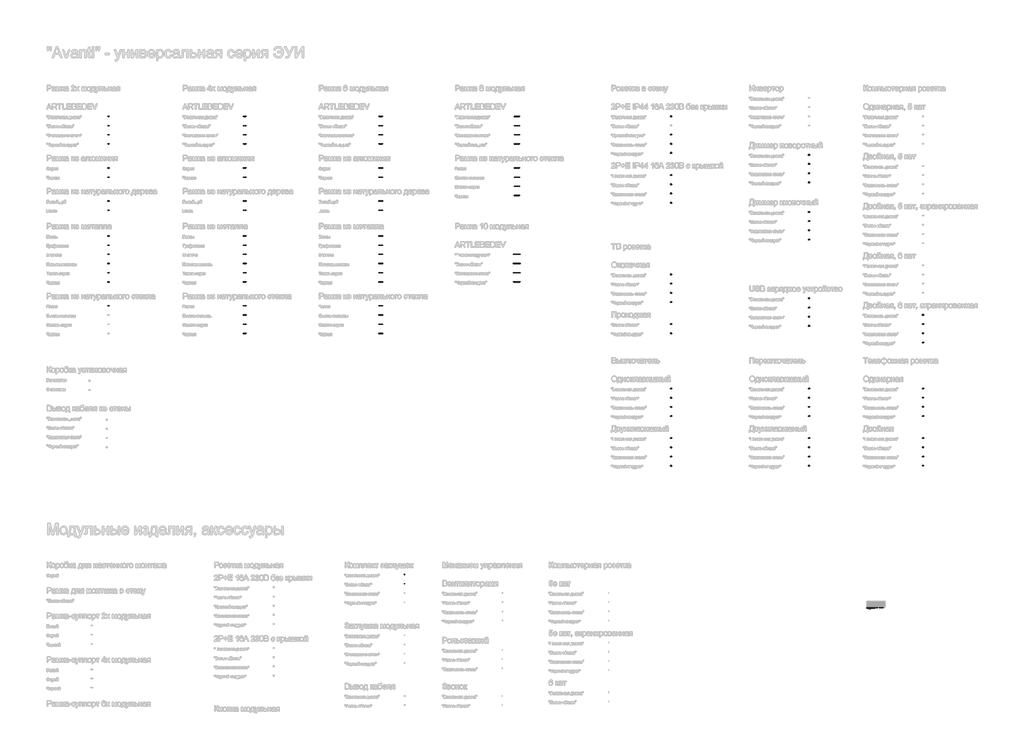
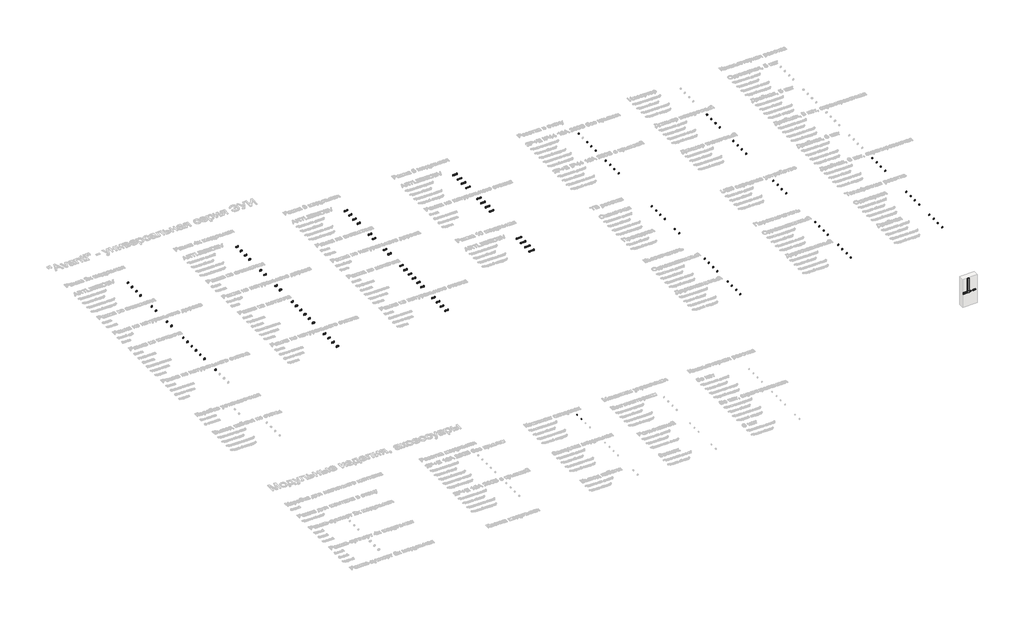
# One storey, part 3 of 168: 129 proxies, 2 duct segments, 1 duct fitting.
"""IFC4 building model written with IfcOpenShell, lengths in millimetres."""

from ifc_helpers import new_model, si_unit, frame, origin, place, context, project, spatial, polyline, outline, extrude, faceted_brep, transform, mapped, element, save
from components import electrical_fixtures_64242326, electrical_fixtures_7a4067e5, electrical_fixtures_bac29046, electrical_fixtures_c10009a4, electrical_fixtures_3f9b09d0, electrical_fixtures_8fb45597, electrical_fixtures_08d7c8de, electrical_fixtures_b48138a3, electrical_fixtures_91fae2c1, electrical_fixtures_f4b334c2, electrical_fixtures_fd861027, electrical_fixtures_89278909, electrical_fixtures_578d20b1, electrical_fixtures_f4268dcb, electrical_fixtures_f1823011, electrical_fixtures_b6c30506, electrical_fixtures_c774a66e, electrical_fixtures_0e93574a, electrical_fixtures_08b576f3, electrical_fixtures_21377ced, electrical_fixtures_25df590b, electrical_fixtures_0ded3fe8, electrical_fixtures_504ae2bb, electrical_fixtures_d27445fa, electrical_fixtures_9d928247, electrical_fixtures_1179ebf0, electrical_fixtures_4ca22318, electrical_fixtures_21e1debb, duct_fitting_18d34416

model = new_model("IFC4")

# Units and contexts
model_context = context("Model", 3, world=origin())
ifc_project = project(units=[si_unit("LENGTHUNIT", "METRE", prefix="MILLI")], contexts=[model_context])

# Site, building, storey
site = spatial("IfcSite", under=ifc_project)
building = spatial("IfcBuilding", under=site)
storey = spatial("IfcBuildingStorey", under=building, Name="Этаж 01", Elevation=0.0)

# Proxies
placement = place(None, origin())
electrical_fixtures_shape = electrical_fixtures_64242326(model_context)
element("IfcBuildingElementProxy", 1, Name="КНС_РамкаСуппортЧетыреМодуля_DKC : Белая", ObjectType="КНС_РамкаСуппортЧетыреМодуля_DKC : Белая", at=placement, inside=storey, context=model_context, shape_type="MappedRepresentation", body=[
    mapped(electrical_fixtures_shape, transform((77624.8555048, -33183.1726656, 1000.0), x_axis=(1.0, 0.0, 0.0), y_axis=(0.0, 1.0, 0.0), z_axis=(0.0, 0.0, 1.0))),
])
electrical_fixtures_2_shape = electrical_fixtures_7a4067e5(model_context)
element("IfcBuildingElementProxy", 2, Name="КНС_РамкаДваМодуля_DKC : Натуральное стекло_Белая", ObjectType="КНС_РамкаДваМодуля_DKC : Натуральное стекло_Белая", at=placement, inside=storey, context=model_context, shape_type="MappedRepresentation", body=[
    mapped(electrical_fixtures_2_shape, transform((36232.6691835, -16731.5608655, 0.0), x_axis=(1.0, 0.0, 0.0), y_axis=(0.0, 1.0, 0.0), z_axis=(0.0, 0.0, 1.0))),
])
element("IfcBuildingElementProxy", 3, Name="КНС_РамкаДваМодуля_DKC : Металл_Белая", ObjectType="КНС_РамкаДваМодуля_DKC : Металл_Белая", at=placement, inside=storey, context=model_context, shape_type="MappedRepresentation", body=[
    mapped(electrical_fixtures_2_shape, transform((36232.6691835, -12931.5608655, 0.0), x_axis=(1.0, 0.0, 0.0), y_axis=(0.0, 1.0, 0.0), z_axis=(0.0, 0.0, 1.0))),
])
electrical_fixtures_3_shape = electrical_fixtures_bac29046(model_context)
element("IfcBuildingElementProxy", 4, Name="КНС_РамкаДваМодуля_DKC : ARTLEBEDEV_Белая", ObjectType="КНС_РамкаДваМодуля_DKC : ARTLEBEDEV_Белая", at=placement, inside=storey, context=model_context, shape_type="MappedRepresentation", body=[
    mapped(electrical_fixtures_3_shape, transform((36232.6691835, -6931.5608655, 0.0), x_axis=(1.0, 0.0, 0.0), y_axis=(0.0, 1.0, 0.0), z_axis=(0.0, 0.0, 1.0))),
])
element("IfcBuildingElementProxy", 5, Name="КНС_РамкаДваМодуля_DKC : Алюминий_Черная", ObjectType="КНС_РамкаДваМодуля_DKC : Алюминий_Черная", at=placement, inside=storey, context=model_context, shape_type="MappedRepresentation", body=[
    mapped(electrical_fixtures_2_shape, transform((36232.6691835, -9731.5608655, 0.0), x_axis=(1.0, 0.0, 0.0), y_axis=(0.0, 1.0, 0.0), z_axis=(0.0, 0.0, 1.0))),
])
electrical_fixtures_4_shape = electrical_fixtures_c10009a4(model_context)
element("IfcBuildingElementProxy", 6, Name="КНС_РамкаДваМодуля_DKC : Дерево_Черная", ObjectType="КНС_РамкаДваМодуля_DKC : Дерево_Черная", at=placement, inside=storey, context=model_context, shape_type="MappedRepresentation", body=[
    mapped(electrical_fixtures_4_shape, transform((36232.6691835, -11531.5608655, 0.0), x_axis=(1.0, 0.0, 0.0), y_axis=(0.0, 1.0, 0.0), z_axis=(0.0, 0.0, 1.0))),
])
element("IfcBuildingElementProxy", 7, Name="КНС_РамкаДваМодуля_DKC : Металл_Черная", ObjectType="КНС_РамкаДваМодуля_DKC : Металл_Черная", at=placement, inside=storey, context=model_context, shape_type="MappedRepresentation", body=[
    mapped(electrical_fixtures_2_shape, transform((36232.6691835, -15431.5608655, 0.0), x_axis=(1.0, 0.0, 0.0), y_axis=(0.0, 1.0, 0.0), z_axis=(0.0, 0.0, 1.0))),
])
element("IfcBuildingElementProxy", 8, Name="КНС_РамкаДваМодуля_DKC : ARTLEBEDEV_Черная", ObjectType="КНС_РамкаДваМодуля_DKC : ARTLEBEDEV_Черная", at=placement, inside=storey, context=model_context, shape_type="MappedRepresentation", body=[
    mapped(electrical_fixtures_3_shape, transform((36232.6691835, -7931.5608655, 0.0), x_axis=(1.0, 0.0, 0.0), y_axis=(0.0, 1.0, 0.0), z_axis=(0.0, 0.0, 1.0))),
])
element("IfcBuildingElementProxy", 9, Name="КНС_РамкаДваМодуля_DKC : Металл_Темно-серая", ObjectType="КНС_РамкаДваМодуля_DKC : Металл_Темно-серая", at=placement, inside=storey, context=model_context, shape_type="MappedRepresentation", body=[
    mapped(electrical_fixtures_2_shape, transform((36232.6691835, -14931.5608655, 0.0), x_axis=(1.0, 0.0, 0.0), y_axis=(0.0, 1.0, 0.0), z_axis=(0.0, 0.0, 1.0))),
])
element("IfcBuildingElementProxy", 10, Name="КНС_РамкаДваМодуля_DKC : Алюминий_Серая", ObjectType="КНС_РамкаДваМодуля_DKC : Алюминий_Серая", at=placement, inside=storey, context=model_context, shape_type="MappedRepresentation", body=[
    mapped(electrical_fixtures_2_shape, transform((36232.6691835, -9231.5608655, 0.0), x_axis=(1.0, 0.0, 0.0), y_axis=(0.0, 1.0, 0.0), z_axis=(0.0, 0.0, 1.0))),
])
element("IfcBuildingElementProxy", 11, Name="КНС_РамкаДваМодуля_DKC : ARTLEBEDEV_Серая", ObjectType="КНС_РамкаДваМодуля_DKC : ARTLEBEDEV_Серая", at=placement, inside=storey, context=model_context, shape_type="MappedRepresentation", body=[
    mapped(electrical_fixtures_3_shape, transform((36232.6691835, -7431.5608655, 0.0), x_axis=(1.0, 0.0, 0.0), y_axis=(0.0, 1.0, 0.0), z_axis=(0.0, 0.0, 1.0))),
])
element("IfcBuildingElementProxy", 12, Name="КНС_РамкаДваМодуля_DKC : ARTLEBEDEV_Серая", ObjectType="КНС_РамкаДваМодуля_DKC : ARTLEBEDEV_Серая", at=placement, inside=storey, context=model_context, shape_type="MappedRepresentation", body=[
    mapped(electrical_fixtures_3_shape, transform((78005.8555048, -33133.1726656, 1000.0), x_axis=(1.0, 0.0, 0.0), y_axis=(0.0, 1.0, 0.0), z_axis=(0.0, 0.0, 1.0))),
])
element("IfcBuildingElementProxy", 13, Name="КНС_РамкаДваМодуля_DKC : Металл_Графитовая", ObjectType="КНС_РамкаДваМодуля_DKC : Металл_Графитовая", at=placement, inside=storey, context=model_context, shape_type="MappedRepresentation", body=[
    mapped(electrical_fixtures_2_shape, transform((36232.6691835, -13431.5608655, 0.0), x_axis=(1.0, 0.0, 0.0), y_axis=(0.0, 1.0, 0.0), z_axis=(0.0, 0.0, 1.0))),
])
element("IfcBuildingElementProxy", 14, Name="КНС_РамкаДваМодуля_DKC : Металл_Золотая", ObjectType="КНС_РамкаДваМодуля_DKC : Металл_Золотая", at=placement, inside=storey, context=model_context, shape_type="MappedRepresentation", body=[
    mapped(electrical_fixtures_2_shape, transform((36232.6691835, -13931.5608655, 0.0), x_axis=(1.0, 0.0, 0.0), y_axis=(0.0, 1.0, 0.0), z_axis=(0.0, 0.0, 1.0))),
])
element("IfcBuildingElementProxy", 15, Name="КНС_РамкаДваМодуля_DKC : ARTLEBEDEV_Бежевая", ObjectType="КНС_РамкаДваМодуля_DKC : ARTLEBEDEV_Бежевая", at=placement, inside=storey, context=model_context, shape_type="MappedRepresentation", body=[
    mapped(electrical_fixtures_3_shape, transform((36232.6691835, -6431.5608655, 0.0), x_axis=(1.0, 0.0, 0.0), y_axis=(0.0, 1.0, 0.0), z_axis=(0.0, 0.0, 1.0))),
])
element("IfcBuildingElementProxy", 16, Name="КНС_РамкаДваМодуля_DKC : Дерево_Белая", ObjectType="КНС_РамкаДваМодуля_DKC : Дерево_Белая", at=placement, inside=storey, context=model_context, shape_type="MappedRepresentation", body=[
    mapped(electrical_fixtures_4_shape, transform((36232.6691835, -11031.5608655, 0.0), x_axis=(1.0, 0.0, 0.0), y_axis=(0.0, 1.0, 0.0), z_axis=(0.0, 0.0, 1.0))),
])
electrical_fixtures_5_shape = electrical_fixtures_3f9b09d0(model_context)
element("IfcBuildingElementProxy", 17, Name="КНС_РозеткаВСтену_DKC : 2P+E IP44 16А 230В_Белая", ObjectType="КНС_РозеткаВСтену_DKC : 2P+E IP44 16А 230В_Белая", at=placement, inside=storey, context=model_context, shape_type="MappedRepresentation", body=[
    mapped(electrical_fixtures_5_shape, transform((78178.3555048, -33098.4726656, 1000.0), x_axis=(1.0, 0.0, 0.0), y_axis=(0.0, 1.0, 0.0), z_axis=(0.0, 0.0, 1.0))),
])
element("IfcBuildingElementProxy", 18, Name="КНС_РозеткаВСтену_DKC : 2P+E IP44 16А 230В_Белая", ObjectType="КНС_РозеткаВСтену_DKC : 2P+E IP44 16А 230В_Белая", at=placement, inside=storey, context=model_context, shape_type="MappedRepresentation", body=[
    mapped(electrical_fixtures_5_shape, transform((78248.3555048, -33098.4726656, 1000.0), x_axis=(1.0, 0.0, 0.0), y_axis=(0.0, 1.0, 0.0), z_axis=(0.0, 0.0, 1.0))),
])
electrical_fixtures_6_shape = electrical_fixtures_8fb45597(model_context)
element("IfcBuildingElementProxy", 19, Name="КНС_РозеткаВСтену_DKC : С крышкой_2P+E IP44 16А 230В_Белая", ObjectType="КНС_РозеткаВСтену_DKC : С крышкой_2P+E IP44 16А 230В_Белая", at=placement, inside=storey, context=model_context, shape_type="MappedRepresentation", body=[
    mapped(electrical_fixtures_6_shape, transform((66821.1137461, -10096.8608655, 0.0), x_axis=(1.0, 0.0, 0.0), y_axis=(0.0, 1.0, 0.0), z_axis=(0.0, 0.0, 1.0))),
])
element("IfcBuildingElementProxy", 20, Name="КНС_РозеткаВСтену_DKC : С крышкой_2P+E IP44 16А 230В_Бежевая", ObjectType="КНС_РозеткаВСтену_DKC : С крышкой_2P+E IP44 16А 230В_Бежевая", at=placement, inside=storey, context=model_context, shape_type="MappedRepresentation", body=[
    mapped(electrical_fixtures_6_shape, transform((66821.1137461, -9596.8608655, 0.0), x_axis=(1.0, 0.0, 0.0), y_axis=(0.0, 1.0, 0.0), z_axis=(0.0, 0.0, 1.0))),
])
element("IfcBuildingElementProxy", 21, Name="КНС_РозеткаВСтену_DKC : 2P+E IP44 16А 230В_Бежевая", ObjectType="КНС_РозеткаВСтену_DKC : 2P+E IP44 16А 230В_Бежевая", at=placement, inside=storey, context=model_context, shape_type="MappedRepresentation", body=[
    mapped(electrical_fixtures_5_shape, transform((66821.1137461, -6396.8608655, 0.0), x_axis=(1.0, 0.0, 0.0), y_axis=(0.0, 1.0, 0.0), z_axis=(0.0, 0.0, 1.0))),
])
element("IfcBuildingElementProxy", 22, Name="КНС_РозеткаВСтену_DKC : 2P+E IP44 16А 230В_Серая", ObjectType="КНС_РозеткаВСтену_DKC : 2P+E IP44 16А 230В_Серая", at=placement, inside=storey, context=model_context, shape_type="MappedRepresentation", body=[
    mapped(electrical_fixtures_5_shape, transform((66821.1137461, -7896.8608655, 0.0), x_axis=(1.0, 0.0, 0.0), y_axis=(0.0, 1.0, 0.0), z_axis=(0.0, 0.0, 1.0))),
])
element("IfcBuildingElementProxy", 23, Name="КНС_РозеткаВСтену_DKC : 2P+E IP44 16А 230В_Серая", ObjectType="КНС_РозеткаВСтену_DKC : 2P+E IP44 16А 230В_Серая", at=placement, inside=storey, context=model_context, shape_type="MappedRepresentation", body=[
    mapped(electrical_fixtures_5_shape, transform((78005.8555048, -33098.4726656, 1000.0), x_axis=(1.0, 0.0, 0.0), y_axis=(0.0, 1.0, 0.0), z_axis=(0.0, 0.0, 1.0))),
])
element("IfcBuildingElementProxy", 24, Name="КНС_РозеткаВСтену_DKC : 2P+E IP44 16А 230В_Черная", ObjectType="КНС_РозеткаВСтену_DKC : 2P+E IP44 16А 230В_Черная", at=placement, inside=storey, context=model_context, shape_type="MappedRepresentation", body=[
    mapped(electrical_fixtures_5_shape, transform((66821.1137461, -8396.8608655, 0.0), x_axis=(1.0, 0.0, 0.0), y_axis=(0.0, 1.0, 0.0), z_axis=(0.0, 0.0, 1.0))),
])
element("IfcBuildingElementProxy", 25, Name="КНС_РозеткаВСтену_DKC : 2P+E IP44 16А 230В_Красная", ObjectType="КНС_РозеткаВСтену_DKC : 2P+E IP44 16А 230В_Красная", at=placement, inside=storey, context=model_context, shape_type="MappedRepresentation", body=[
    mapped(electrical_fixtures_5_shape, transform((66821.1137461, -7396.8608655, 0.0), x_axis=(1.0, 0.0, 0.0), y_axis=(0.0, 1.0, 0.0), z_axis=(0.0, 0.0, 1.0))),
])
element("IfcBuildingElementProxy", 26, Name="КНС_РозеткаВСтену_DKC : С крышкой_2P+E IP44 16А 230В_Черная", ObjectType="КНС_РозеткаВСтену_DKC : С крышкой_2P+E IP44 16А 230В_Черная", at=placement, inside=storey, context=model_context, shape_type="MappedRepresentation", body=[
    mapped(electrical_fixtures_6_shape, transform((66821.1137461, -11096.8608655, 0.0), x_axis=(1.0, 0.0, 0.0), y_axis=(0.0, 1.0, 0.0), z_axis=(0.0, 0.0, 1.0))),
])
element("IfcBuildingElementProxy", 27, Name="КНС_РозеткаВСтену_DKC : С крышкой_2P+E IP44 16А 230В_Серая", ObjectType="КНС_РозеткаВСтену_DKC : С крышкой_2P+E IP44 16А 230В_Серая", at=placement, inside=storey, context=model_context, shape_type="MappedRepresentation", body=[
    mapped(electrical_fixtures_6_shape, transform((66821.1137461, -10596.8608655, 0.0), x_axis=(1.0, 0.0, 0.0), y_axis=(0.0, 1.0, 0.0), z_axis=(0.0, 0.0, 1.0))),
])
electrical_fixtures_7_shape = electrical_fixtures_08d7c8de(model_context)
element("IfcBuildingElementProxy", 28, Name="КНС_РозеткаМодульная_DKC : 2P+E 16А 230В_Белая", ObjectType="КНС_РозеткаМодульная_DKC : 2P+E 16А 230В_Белая", at=placement, inside=storey, context=model_context, shape_type="MappedRepresentation", body=[
    mapped(electrical_fixtures_7_shape, transform((77598.8555048, -33148.4726656, 1000.0), x_axis=(1.0, 0.0, 0.0), y_axis=(0.0, 1.0, 0.0), z_axis=(0.0, 0.0, 1.0))),
])
element("IfcBuildingElementProxy", 29, Name="КНС_РамкаДваМодуля_DKC : Металл_Никилированная", ObjectType="КНС_РамкаДваМодуля_DKC : Металл_Никилированная", at=placement, inside=storey, context=model_context, shape_type="MappedRepresentation", body=[
    mapped(electrical_fixtures_2_shape, transform((36232.6691835, -14431.5608655, 0.0), x_axis=(1.0, 0.0, 0.0), y_axis=(0.0, 1.0, 0.0), z_axis=(0.0, 0.0, 1.0))),
])
electrical_fixtures_8_shape = electrical_fixtures_b48138a3(model_context)
element("IfcBuildingElementProxy", 30, Name="КНС_РамкаЧетыреМодуля_DKC : Натуральное стекло_Белая", ObjectType="КНС_РамкаЧетыреМодуля_DKC : Натуральное стекло_Белая", at=placement, inside=storey, context=model_context, shape_type="MappedRepresentation", body=[
    mapped(electrical_fixtures_8_shape, transform((43632.6691835, -16731.5608655, 0.0), x_axis=(1.0, 0.0, 0.0), y_axis=(0.0, 1.0, 0.0), z_axis=(0.0, 0.0, 1.0))),
])
element("IfcBuildingElementProxy", 31, Name="КНС_РамкаЧетыреМодуля_DKC : Металл_Белая", ObjectType="КНС_РамкаЧетыреМодуля_DKC : Металл_Белая", at=placement, inside=storey, context=model_context, shape_type="MappedRepresentation", body=[
    mapped(electrical_fixtures_8_shape, transform((43632.6691835, -12931.5608655, 0.0), x_axis=(1.0, 0.0, 0.0), y_axis=(0.0, 1.0, 0.0), z_axis=(0.0, 0.0, 1.0))),
])
electrical_fixtures_9_shape = electrical_fixtures_91fae2c1(model_context)
element("IfcBuildingElementProxy", 32, Name="КНС_РамкаЧетыреМодуля_DKC : ARTLEBEDEV_Белая", ObjectType="КНС_РамкаЧетыреМодуля_DKC : ARTLEBEDEV_Белая", at=placement, inside=storey, context=model_context, shape_type="MappedRepresentation", body=[
    mapped(electrical_fixtures_9_shape, transform((43632.6691835, -6931.5608655, 0.0), x_axis=(1.0, 0.0, 0.0), y_axis=(0.0, 1.0, 0.0), z_axis=(0.0, 0.0, 1.0))),
])
element("IfcBuildingElementProxy", 33, Name="КНС_РамкаЧетыреМодуля_DKC : Натуральное стекло_Черная", ObjectType="КНС_РамкаЧетыреМодуля_DKC : Натуральное стекло_Черная", at=placement, inside=storey, context=model_context, shape_type="MappedRepresentation", body=[
    mapped(electrical_fixtures_8_shape, transform((43632.6691835, -18231.5608655, 0.0), x_axis=(1.0, 0.0, 0.0), y_axis=(0.0, 1.0, 0.0), z_axis=(0.0, 0.0, 1.0))),
])
element("IfcBuildingElementProxy", 34, Name="КНС_РамкаЧетыреМодуля_DKC : Алюминий_Черная", ObjectType="КНС_РамкаЧетыреМодуля_DKC : Алюминий_Черная", at=placement, inside=storey, context=model_context, shape_type="MappedRepresentation", body=[
    mapped(electrical_fixtures_8_shape, transform((43632.6691835, -9731.5608655, 0.0), x_axis=(1.0, 0.0, 0.0), y_axis=(0.0, 1.0, 0.0), z_axis=(0.0, 0.0, 1.0))),
])
electrical_fixtures_10_shape = electrical_fixtures_f4b334c2(model_context)
element("IfcBuildingElementProxy", 35, Name="КНС_РамкаЧетыреМодуля_DKC : Дерево_Черная", ObjectType="КНС_РамкаЧетыреМодуля_DKC : Дерево_Черная", at=placement, inside=storey, context=model_context, shape_type="MappedRepresentation", body=[
    mapped(electrical_fixtures_10_shape, transform((43632.6691835, -11531.5608655, 0.0), x_axis=(1.0, 0.0, 0.0), y_axis=(0.0, 1.0, 0.0), z_axis=(0.0, 0.0, 1.0))),
])
element("IfcBuildingElementProxy", 36, Name="КНС_РамкаЧетыреМодуля_DKC : Металл_Черная", ObjectType="КНС_РамкаЧетыреМодуля_DKC : Металл_Черная", at=placement, inside=storey, context=model_context, shape_type="MappedRepresentation", body=[
    mapped(electrical_fixtures_8_shape, transform((43632.6691835, -15431.5608655, 0.0), x_axis=(1.0, 0.0, 0.0), y_axis=(0.0, 1.0, 0.0), z_axis=(0.0, 0.0, 1.0))),
])
element("IfcBuildingElementProxy", 37, Name="КНС_РамкаЧетыреМодуля_DKC : ARTLEBEDEV_Черная", ObjectType="КНС_РамкаЧетыреМодуля_DKC : ARTLEBEDEV_Черная", at=placement, inside=storey, context=model_context, shape_type="MappedRepresentation", body=[
    mapped(electrical_fixtures_9_shape, transform((43632.6691835, -7931.5608655, 0.0), x_axis=(1.0, 0.0, 0.0), y_axis=(0.0, 1.0, 0.0), z_axis=(0.0, 0.0, 1.0))),
])
element("IfcBuildingElementProxy", 38, Name="КНС_РамкаЧетыреМодуля_DKC : Металл_Темно-серая", ObjectType="КНС_РамкаЧетыреМодуля_DKC : Металл_Темно-серая", at=placement, inside=storey, context=model_context, shape_type="MappedRepresentation", body=[
    mapped(electrical_fixtures_8_shape, transform((43632.6691835, -14931.5608655, 0.0), x_axis=(1.0, 0.0, 0.0), y_axis=(0.0, 1.0, 0.0), z_axis=(0.0, 0.0, 1.0))),
])
element("IfcBuildingElementProxy", 39, Name="КНС_РамкаЧетыреМодуля_DKC : Натуральное стекло_Светло-серая", ObjectType="КНС_РамкаЧетыреМодуля_DKC : Натуральное стекло_Светло-серая", at=placement, inside=storey, context=model_context, shape_type="MappedRepresentation", body=[
    mapped(electrical_fixtures_8_shape, transform((43632.6691835, -17731.5608655, 0.0), x_axis=(1.0, 0.0, 0.0), y_axis=(0.0, 1.0, 0.0), z_axis=(0.0, 0.0, 1.0))),
])
element("IfcBuildingElementProxy", 40, Name="КНС_РамкаЧетыреМодуля_DKC : Алюминий_Серая", ObjectType="КНС_РамкаЧетыреМодуля_DKC : Алюминий_Серая", at=placement, inside=storey, context=model_context, shape_type="MappedRepresentation", body=[
    mapped(electrical_fixtures_8_shape, transform((43632.6691835, -9231.5608655, 0.0), x_axis=(1.0, 0.0, 0.0), y_axis=(0.0, 1.0, 0.0), z_axis=(0.0, 0.0, 1.0))),
])
element("IfcBuildingElementProxy", 41, Name="КНС_РамкаЧетыреМодуля_DKC : ARTLEBEDEV_Серая", ObjectType="КНС_РамкаЧетыреМодуля_DKC : ARTLEBEDEV_Серая", at=placement, inside=storey, context=model_context, shape_type="MappedRepresentation", body=[
    mapped(electrical_fixtures_9_shape, transform((43632.6691835, -7431.5608655, 0.0), x_axis=(1.0, 0.0, 0.0), y_axis=(0.0, 1.0, 0.0), z_axis=(0.0, 0.0, 1.0))),
])
element("IfcBuildingElementProxy", 42, Name="КНС_РамкаЧетыреМодуля_DKC : Натуральное стекло_Светло-зеленая", ObjectType="КНС_РамкаЧетыреМодуля_DKC : Натуральное стекло_Светло-зеленая", at=placement, inside=storey, context=model_context, shape_type="MappedRepresentation", body=[
    mapped(electrical_fixtures_8_shape, transform((43632.6691835, -17231.5608655, 0.0), x_axis=(1.0, 0.0, 0.0), y_axis=(0.0, 1.0, 0.0), z_axis=(0.0, 0.0, 1.0))),
])
element("IfcBuildingElementProxy", 43, Name="КНС_РамкаЧетыреМодуля_DKC : Металл_Графитовая", ObjectType="КНС_РамкаЧетыреМодуля_DKC : Металл_Графитовая", at=placement, inside=storey, context=model_context, shape_type="MappedRepresentation", body=[
    mapped(electrical_fixtures_8_shape, transform((43632.6691835, -13431.5608655, 0.0), x_axis=(1.0, 0.0, 0.0), y_axis=(0.0, 1.0, 0.0), z_axis=(0.0, 0.0, 1.0))),
])
element("IfcBuildingElementProxy", 44, Name="КНС_РамкаЧетыреМодуля_DKC : Металл_Золотая", ObjectType="КНС_РамкаЧетыреМодуля_DKC : Металл_Золотая", at=placement, inside=storey, context=model_context, shape_type="MappedRepresentation", body=[
    mapped(electrical_fixtures_8_shape, transform((43632.6691835, -13931.5608655, 0.0), x_axis=(1.0, 0.0, 0.0), y_axis=(0.0, 1.0, 0.0), z_axis=(0.0, 0.0, 1.0))),
])
element("IfcBuildingElementProxy", 45, Name="КНС_РамкаЧетыреМодуля_DKC : Металл_Никилированная", ObjectType="КНС_РамкаЧетыреМодуля_DKC : Металл_Никилированная", at=placement, inside=storey, context=model_context, shape_type="MappedRepresentation", body=[
    mapped(electrical_fixtures_8_shape, transform((43632.6691835, -14431.5608655, 0.0), x_axis=(1.0, 0.0, 0.0), y_axis=(0.0, 1.0, 0.0), z_axis=(0.0, 0.0, 1.0))),
])
element("IfcBuildingElementProxy", 46, Name="КНС_РамкаЧетыреМодуля_DKC : ARTLEBEDEV_Бежевая", ObjectType="КНС_РамкаЧетыреМодуля_DKC : ARTLEBEDEV_Бежевая", at=placement, inside=storey, context=model_context, shape_type="MappedRepresentation", body=[
    mapped(electrical_fixtures_9_shape, transform((43632.6691835, -6431.5608655, 0.0), x_axis=(1.0, 0.0, 0.0), y_axis=(0.0, 1.0, 0.0), z_axis=(0.0, 0.0, 1.0))),
])
element("IfcBuildingElementProxy", 47, Name="КНС_РамкаЧетыреМодуля_DKC : Дерево_Белая", ObjectType="КНС_РамкаЧетыреМодуля_DKC : Дерево_Белая", at=placement, inside=storey, context=model_context, shape_type="MappedRepresentation", body=[
    mapped(electrical_fixtures_10_shape, transform((43632.6691835, -11031.5608655, 0.0), x_axis=(1.0, 0.0, 0.0), y_axis=(0.0, 1.0, 0.0), z_axis=(0.0, 0.0, 1.0))),
])
electrical_fixtures_11_shape = electrical_fixtures_fd861027(model_context)
element("IfcBuildingElementProxy", 48, Name="КНС_РамкаШестьМодулей_DKC : Натуральное стекло_Белая", ObjectType="КНС_РамкаШестьМодулей_DKC : Натуральное стекло_Белая", at=placement, inside=storey, context=model_context, shape_type="MappedRepresentation", body=[
    mapped(electrical_fixtures_11_shape, transform((51032.6691835, -16731.5608655, 0.0), x_axis=(1.0, 0.0, 0.0), y_axis=(0.0, 1.0, 0.0), z_axis=(0.0, 0.0, 1.0))),
])
element("IfcBuildingElementProxy", 49, Name="КНС_РамкаШестьМодулей_DKC : Металл_Белая", ObjectType="КНС_РамкаШестьМодулей_DKC : Металл_Белая", at=placement, inside=storey, context=model_context, shape_type="MappedRepresentation", body=[
    mapped(electrical_fixtures_11_shape, transform((51032.6691835, -12931.5608655, 0.0), x_axis=(1.0, 0.0, 0.0), y_axis=(0.0, 1.0, 0.0), z_axis=(0.0, 0.0, 1.0))),
])
element("IfcBuildingElementProxy", 50, Name="КНС_РамкаШестьМодулей_DKC : Металл_Белая", ObjectType="КНС_РамкаШестьМодулей_DKC : Металл_Белая", at=placement, inside=storey, context=model_context, shape_type="MappedRepresentation", body=[
    mapped(electrical_fixtures_11_shape, transform((78248.3555048, -33133.1726656, 1000.0), x_axis=(1.0, 0.0, 0.0), y_axis=(0.0, 1.0, 0.0), z_axis=(0.0, 0.0, 1.0))),
])
electrical_fixtures_12_shape = electrical_fixtures_89278909(model_context)
element("IfcBuildingElementProxy", 51, Name="КНС_РамкаШестьМодулей_DKC : ARTLEBEDEV_Белая", ObjectType="КНС_РамкаШестьМодулей_DKC : ARTLEBEDEV_Белая", at=placement, inside=storey, context=model_context, shape_type="MappedRepresentation", body=[
    mapped(electrical_fixtures_12_shape, transform((51032.6691835, -6931.5608655, 0.0), x_axis=(1.0, 0.0, 0.0), y_axis=(0.0, 1.0, 0.0), z_axis=(0.0, 0.0, 1.0))),
])
element("IfcBuildingElementProxy", 52, Name="КНС_РамкаШестьМодулей_DKC : Натуральное стекло_Черная", ObjectType="КНС_РамкаШестьМодулей_DKC : Натуральное стекло_Черная", at=placement, inside=storey, context=model_context, shape_type="MappedRepresentation", body=[
    mapped(electrical_fixtures_11_shape, transform((51032.6691835, -18231.5608655, 0.0), x_axis=(1.0, 0.0, 0.0), y_axis=(0.0, 1.0, 0.0), z_axis=(0.0, 0.0, 1.0))),
])
element("IfcBuildingElementProxy", 53, Name="КНС_РамкаШестьМодулей_DKC : Алюминий_Черная", ObjectType="КНС_РамкаШестьМодулей_DKC : Алюминий_Черная", at=placement, inside=storey, context=model_context, shape_type="MappedRepresentation", body=[
    mapped(electrical_fixtures_11_shape, transform((51032.6691835, -9731.5608655, 0.0), x_axis=(1.0, 0.0, 0.0), y_axis=(0.0, 1.0, 0.0), z_axis=(0.0, 0.0, 1.0))),
])
electrical_fixtures_13_shape = electrical_fixtures_578d20b1(model_context)
element("IfcBuildingElementProxy", 54, Name="КНС_РамкаШестьМодулей_DKC : Дерево_Черная", ObjectType="КНС_РамкаШестьМодулей_DKC : Дерево_Черная", at=placement, inside=storey, context=model_context, shape_type="MappedRepresentation", body=[
    mapped(electrical_fixtures_13_shape, transform((51032.6691835, -11531.5608655, 0.0), x_axis=(1.0, 0.0, 0.0), y_axis=(0.0, 1.0, 0.0), z_axis=(0.0, 0.0, 1.0))),
])
element("IfcBuildingElementProxy", 55, Name="КНС_РамкаШестьМодулей_DKC : Металл_Черная", ObjectType="КНС_РамкаШестьМодулей_DKC : Металл_Черная", at=placement, inside=storey, context=model_context, shape_type="MappedRepresentation", body=[
    mapped(electrical_fixtures_11_shape, transform((51032.6691835, -15431.5608655, 0.0), x_axis=(1.0, 0.0, 0.0), y_axis=(0.0, 1.0, 0.0), z_axis=(0.0, 0.0, 1.0))),
])
element("IfcBuildingElementProxy", 56, Name="КНС_РамкаШестьМодулей_DKC : ARTLEBEDEV_Черная", ObjectType="КНС_РамкаШестьМодулей_DKC : ARTLEBEDEV_Черная", at=placement, inside=storey, context=model_context, shape_type="MappedRepresentation", body=[
    mapped(electrical_fixtures_12_shape, transform((51032.6691835, -7931.5608655, 0.0), x_axis=(1.0, 0.0, 0.0), y_axis=(0.0, 1.0, 0.0), z_axis=(0.0, 0.0, 1.0))),
])
element("IfcBuildingElementProxy", 57, Name="КНС_РамкаШестьМодулей_DKC : Металл_Темно-серая", ObjectType="КНС_РамкаШестьМодулей_DKC : Металл_Темно-серая", at=placement, inside=storey, context=model_context, shape_type="MappedRepresentation", body=[
    mapped(electrical_fixtures_11_shape, transform((51032.6691835, -14931.5608655, 0.0), x_axis=(1.0, 0.0, 0.0), y_axis=(0.0, 1.0, 0.0), z_axis=(0.0, 0.0, 1.0))),
])
element("IfcBuildingElementProxy", 58, Name="КНС_РамкаШестьМодулей_DKC : Натуральное стекло_Светло-серая", ObjectType="КНС_РамкаШестьМодулей_DKC : Натуральное стекло_Светло-серая", at=placement, inside=storey, context=model_context, shape_type="MappedRepresentation", body=[
    mapped(electrical_fixtures_11_shape, transform((51032.6691835, -17731.5608655, 0.0), x_axis=(1.0, 0.0, 0.0), y_axis=(0.0, 1.0, 0.0), z_axis=(0.0, 0.0, 1.0))),
])
element("IfcBuildingElementProxy", 59, Name="КНС_РамкаШестьМодулей_DKC : Алюминий_Серая", ObjectType="КНС_РамкаШестьМодулей_DKC : Алюминий_Серая", at=placement, inside=storey, context=model_context, shape_type="MappedRepresentation", body=[
    mapped(electrical_fixtures_11_shape, transform((51032.6691835, -9231.5608655, 0.0), x_axis=(1.0, 0.0, 0.0), y_axis=(0.0, 1.0, 0.0), z_axis=(0.0, 0.0, 1.0))),
])
element("IfcBuildingElementProxy", 60, Name="КНС_РамкаШестьМодулей_DKC : ARTLEBEDEV_Серая", ObjectType="КНС_РамкаШестьМодулей_DKC : ARTLEBEDEV_Серая", at=placement, inside=storey, context=model_context, shape_type="MappedRepresentation", body=[
    mapped(electrical_fixtures_12_shape, transform((51032.6691835, -7431.5608655, 0.0), x_axis=(1.0, 0.0, 0.0), y_axis=(0.0, 1.0, 0.0), z_axis=(0.0, 0.0, 1.0))),
])
element("IfcBuildingElementProxy", 61, Name="КНС_РамкаШестьМодулей_DKC : Натуральное стекло_Светло-зеленая", ObjectType="КНС_РамкаШестьМодулей_DKC : Натуральное стекло_Светло-зеленая", at=placement, inside=storey, context=model_context, shape_type="MappedRepresentation", body=[
    mapped(electrical_fixtures_11_shape, transform((51032.6691835, -17231.5608655, 0.0), x_axis=(1.0, 0.0, 0.0), y_axis=(0.0, 1.0, 0.0), z_axis=(0.0, 0.0, 1.0))),
])
element("IfcBuildingElementProxy", 62, Name="КНС_РамкаШестьМодулей_DKC : Металл_Графитовая", ObjectType="КНС_РамкаШестьМодулей_DKC : Металл_Графитовая", at=placement, inside=storey, context=model_context, shape_type="MappedRepresentation", body=[
    mapped(electrical_fixtures_11_shape, transform((51032.6691835, -13431.5608655, 0.0), x_axis=(1.0, 0.0, 0.0), y_axis=(0.0, 1.0, 0.0), z_axis=(0.0, 0.0, 1.0))),
])
element("IfcBuildingElementProxy", 63, Name="КНС_РамкаШестьМодулей_DKC : Металл_Золотая", ObjectType="КНС_РамкаШестьМодулей_DKC : Металл_Золотая", at=placement, inside=storey, context=model_context, shape_type="MappedRepresentation", body=[
    mapped(electrical_fixtures_11_shape, transform((51032.6691835, -13931.5608655, 0.0), x_axis=(1.0, 0.0, 0.0), y_axis=(0.0, 1.0, 0.0), z_axis=(0.0, 0.0, 1.0))),
])
element("IfcBuildingElementProxy", 64, Name="КНС_РамкаШестьМодулей_DKC : Металл_Никилированная", ObjectType="КНС_РамкаШестьМодулей_DKC : Металл_Никилированная", at=placement, inside=storey, context=model_context, shape_type="MappedRepresentation", body=[
    mapped(electrical_fixtures_11_shape, transform((51032.6691835, -14431.5608655, 0.0), x_axis=(1.0, 0.0, 0.0), y_axis=(0.0, 1.0, 0.0), z_axis=(0.0, 0.0, 1.0))),
])
element("IfcBuildingElementProxy", 65, Name="КНС_РамкаШестьМодулей_DKC : ARTLEBEDEV_Бежевая", ObjectType="КНС_РамкаШестьМодулей_DKC : ARTLEBEDEV_Бежевая", at=placement, inside=storey, context=model_context, shape_type="MappedRepresentation", body=[
    mapped(electrical_fixtures_12_shape, transform((51032.6691835, -6431.5608655, 0.0), x_axis=(1.0, 0.0, 0.0), y_axis=(0.0, 1.0, 0.0), z_axis=(0.0, 0.0, 1.0))),
])
element("IfcBuildingElementProxy", 66, Name="КНС_РамкаШестьМодулей_DKC : Дерево_Белая", ObjectType="КНС_РамкаШестьМодулей_DKC : Дерево_Белая", at=placement, inside=storey, context=model_context, shape_type="MappedRepresentation", body=[
    mapped(electrical_fixtures_13_shape, transform((51032.6691835, -11031.5608655, 0.0), x_axis=(1.0, 0.0, 0.0), y_axis=(0.0, 1.0, 0.0), z_axis=(0.0, 0.0, 1.0))),
])
electrical_fixtures_14_shape = electrical_fixtures_f4268dcb(model_context)
element("IfcBuildingElementProxy", 67, Name="КНС_РамкаВосемьМодулей_DKC : Натуральное стекло_Белая", ObjectType="КНС_РамкаВосемьМодулей_DKC : Натуральное стекло_Белая", at=placement, inside=storey, context=model_context, shape_type="MappedRepresentation", body=[
    mapped(electrical_fixtures_14_shape, transform((58432.6691835, -9231.5608655, 0.0), x_axis=(1.0, 0.0, 0.0), y_axis=(0.0, 1.0, 0.0), z_axis=(0.0, 0.0, 1.0))),
])
electrical_fixtures_15_shape = electrical_fixtures_f1823011(model_context)
element("IfcBuildingElementProxy", 68, Name="КНС_РамкаВосемьМодулей_DKC : ARTLEBEDEV_Белая", ObjectType="КНС_РамкаВосемьМодулей_DKC : ARTLEBEDEV_Белая", at=placement, inside=storey, context=model_context, shape_type="MappedRepresentation", body=[
    mapped(electrical_fixtures_15_shape, transform((58432.6691835, -6931.5608655, 0.0), x_axis=(1.0, 0.0, 0.0), y_axis=(0.0, 1.0, 0.0), z_axis=(0.0, 0.0, 1.0))),
])
element("IfcBuildingElementProxy", 69, Name="КНС_РамкаВосемьМодулей_DKC : Натуральное стекло_Черная", ObjectType="КНС_РамкаВосемьМодулей_DKC : Натуральное стекло_Черная", at=placement, inside=storey, context=model_context, shape_type="MappedRepresentation", body=[
    mapped(electrical_fixtures_14_shape, transform((58432.6691835, -10731.5608655, 0.0), x_axis=(1.0, 0.0, 0.0), y_axis=(0.0, 1.0, 0.0), z_axis=(0.0, 0.0, 1.0))),
])
element("IfcBuildingElementProxy", 70, Name="КНС_РамкаВосемьМодулей_DKC : ARTLEBEDEV_Черная", ObjectType="КНС_РамкаВосемьМодулей_DKC : ARTLEBEDEV_Черная", at=placement, inside=storey, context=model_context, shape_type="MappedRepresentation", body=[
    mapped(electrical_fixtures_15_shape, transform((58432.6691835, -7931.5608655, 0.0), x_axis=(1.0, 0.0, 0.0), y_axis=(0.0, 1.0, 0.0), z_axis=(0.0, 0.0, 1.0))),
])
element("IfcBuildingElementProxy", 71, Name="КНС_РамкаВосемьМодулей_DKC : Натуральное стекло_Светло-серая", ObjectType="КНС_РамкаВосемьМодулей_DKC : Натуральное стекло_Светло-серая", at=placement, inside=storey, context=model_context, shape_type="MappedRepresentation", body=[
    mapped(electrical_fixtures_14_shape, transform((58432.6691835, -10231.5608655, 0.0), x_axis=(1.0, 0.0, 0.0), y_axis=(0.0, 1.0, 0.0), z_axis=(0.0, 0.0, 1.0))),
])
element("IfcBuildingElementProxy", 72, Name="КНС_РамкаВосемьМодулей_DKC : ARTLEBEDEV_Серая", ObjectType="КНС_РамкаВосемьМодулей_DKC : ARTLEBEDEV_Серая", at=placement, inside=storey, context=model_context, shape_type="MappedRepresentation", body=[
    mapped(electrical_fixtures_15_shape, transform((58432.6691835, -7431.5608655, 0.0), x_axis=(1.0, 0.0, 0.0), y_axis=(0.0, 1.0, 0.0), z_axis=(0.0, 0.0, 1.0))),
])
element("IfcBuildingElementProxy", 73, Name="КНС_РамкаВосемьМодулей_DKC : Натуральное стекло_Светло-зеленая", ObjectType="КНС_РамкаВосемьМодулей_DKC : Натуральное стекло_Светло-зеленая", at=placement, inside=storey, context=model_context, shape_type="MappedRepresentation", body=[
    mapped(electrical_fixtures_14_shape, transform((58432.6691835, -9731.5608655, 0.0), x_axis=(1.0, 0.0, 0.0), y_axis=(0.0, 1.0, 0.0), z_axis=(0.0, 0.0, 1.0))),
])
element("IfcBuildingElementProxy", 74, Name="КНС_РамкаВосемьМодулей_DKC : ARTLEBEDEV_Бежевая", ObjectType="КНС_РамкаВосемьМодулей_DKC : ARTLEBEDEV_Бежевая", at=placement, inside=storey, context=model_context, shape_type="MappedRepresentation", body=[
    mapped(electrical_fixtures_15_shape, transform((58432.6691835, -6431.5608655, 0.0), x_axis=(1.0, 0.0, 0.0), y_axis=(0.0, 1.0, 0.0), z_axis=(0.0, 0.0, 1.0))),
])
electrical_fixtures_16_shape = electrical_fixtures_b6c30506(model_context)
element("IfcBuildingElementProxy", 75, Name="КНС_РамкаДесятьМодулей_DKC : ARTLEBEDEV_Белая", ObjectType="КНС_РамкаДесятьМодулей_DKC : ARTLEBEDEV_Белая", at=placement, inside=storey, context=model_context, shape_type="MappedRepresentation", body=[
    mapped(electrical_fixtures_16_shape, transform((58432.6691835, -14431.5608655, 0.0), x_axis=(1.0, 0.0, 0.0), y_axis=(0.0, 1.0, 0.0), z_axis=(0.0, 0.0, 1.0))),
])
element("IfcBuildingElementProxy", 76, Name="КНС_РамкаДесятьМодулей_DKC : ARTLEBEDEV_Черная", ObjectType="КНС_РамкаДесятьМодулей_DKC : ARTLEBEDEV_Черная", at=placement, inside=storey, context=model_context, shape_type="MappedRepresentation", body=[
    mapped(electrical_fixtures_16_shape, transform((58432.6691835, -15431.5608655, 0.0), x_axis=(1.0, 0.0, 0.0), y_axis=(0.0, 1.0, 0.0), z_axis=(0.0, 0.0, 1.0))),
])
element("IfcBuildingElementProxy", 77, Name="КНС_РамкаДесятьМодулей_DKC : ARTLEBEDEV_Серая", ObjectType="КНС_РамкаДесятьМодулей_DKC : ARTLEBEDEV_Серая", at=placement, inside=storey, context=model_context, shape_type="MappedRepresentation", body=[
    mapped(electrical_fixtures_16_shape, transform((58432.6691835, -14931.5608655, 0.0), x_axis=(1.0, 0.0, 0.0), y_axis=(0.0, 1.0, 0.0), z_axis=(0.0, 0.0, 1.0))),
])
element("IfcBuildingElementProxy", 78, Name="КНС_РамкаДесятьМодулей_DKC : ARTLEBEDEV_Бежевая", ObjectType="КНС_РамкаДесятьМодулей_DKC : ARTLEBEDEV_Бежевая", at=placement, inside=storey, context=model_context, shape_type="MappedRepresentation", body=[
    mapped(electrical_fixtures_16_shape, transform((58432.6691835, -13931.5608655, 0.0), x_axis=(1.0, 0.0, 0.0), y_axis=(0.0, 1.0, 0.0), z_axis=(0.0, 0.0, 1.0))),
])
electrical_fixtures_17_shape = electrical_fixtures_c774a66e(model_context)
element("IfcBuildingElementProxy", 79, Name="КНС_РозеткаТВВСтену_DKC : Оконечная_Белая", ObjectType="КНС_РозеткаТВВСтену_DKC : Оконечная_Белая", at=placement, inside=storey, context=model_context, shape_type="MappedRepresentation", body=[
    mapped(electrical_fixtures_17_shape, transform((66821.1137461, -15496.8608655, 0.0), x_axis=(1.0, 0.0, 0.0), y_axis=(0.0, 1.0, 0.0), z_axis=(0.0, 0.0, 1.0))),
])
element("IfcBuildingElementProxy", 80, Name="КНС_РозеткаТВВСтену_DKC : Оконечная_Бежевая", ObjectType="КНС_РозеткаТВВСтену_DKC : Оконечная_Бежевая", at=placement, inside=storey, context=model_context, shape_type="MappedRepresentation", body=[
    mapped(electrical_fixtures_17_shape, transform((66821.1137461, -14996.8608655, 0.0), x_axis=(1.0, 0.0, 0.0), y_axis=(0.0, 1.0, 0.0), z_axis=(0.0, 0.0, 1.0))),
])
element("IfcBuildingElementProxy", 81, Name="КНС_РозеткаТВВСтену_DKC : Оконечная_Серая", ObjectType="КНС_РозеткаТВВСтену_DKC : Оконечная_Серая", at=placement, inside=storey, context=model_context, shape_type="MappedRepresentation", body=[
    mapped(electrical_fixtures_17_shape, transform((66821.1137461, -15996.8608655, 0.0), x_axis=(1.0, 0.0, 0.0), y_axis=(0.0, 1.0, 0.0), z_axis=(0.0, 0.0, 1.0))),
])
element("IfcBuildingElementProxy", 82, Name="КНС_РозеткаТВВСтену_DKC : Оконечная_Черная", ObjectType="КНС_РозеткаТВВСтену_DKC : Оконечная_Черная", at=placement, inside=storey, context=model_context, shape_type="MappedRepresentation", body=[
    mapped(electrical_fixtures_17_shape, transform((66821.1137461, -16496.8608655, 0.0), x_axis=(1.0, 0.0, 0.0), y_axis=(0.0, 1.0, 0.0), z_axis=(0.0, 0.0, 1.0))),
])
electrical_fixtures_18_shape = electrical_fixtures_0e93574a(model_context)
element("IfcBuildingElementProxy", 83, Name="КНС_РозеткаТВВСтену_DKC : Проходная_Белая", ObjectType="КНС_РозеткаТВВСтену_DKC : Проходная_Белая", at=placement, inside=storey, context=model_context, shape_type="MappedRepresentation", body=[
    mapped(electrical_fixtures_18_shape, transform((66821.1137461, -17696.8608655, 0.0), x_axis=(1.0, 0.0, 0.0), y_axis=(0.0, 1.0, 0.0), z_axis=(0.0, 0.0, 1.0))),
])
element("IfcBuildingElementProxy", 84, Name="КНС_РозеткаТВВСтену_DKC : Проходная_Черная", ObjectType="КНС_РозеткаТВВСтену_DKC : Проходная_Черная", at=placement, inside=storey, context=model_context, shape_type="MappedRepresentation", body=[
    mapped(electrical_fixtures_18_shape, transform((66821.1137461, -18196.8608655, 0.0), x_axis=(1.0, 0.0, 0.0), y_axis=(0.0, 1.0, 0.0), z_axis=(0.0, 0.0, 1.0))),
])
electrical_fixtures_19_shape = electrical_fixtures_08b576f3(model_context)
element("IfcBuildingElementProxy", 85, Name="КНС_ВыключательВСтену_DKC : Одноклавишный_Белый", ObjectType="КНС_ВыключательВСтену_DKC : Одноклавишный_Белый", at=placement, inside=storey, context=model_context, shape_type="MappedRepresentation", body=[
    mapped(electrical_fixtures_19_shape, transform((66821.1137461, -21696.8608655, 0.0), x_axis=(1.0, 0.0, 0.0), y_axis=(0.0, 1.0, 0.0), z_axis=(0.0, 0.0, 1.0))),
])
element("IfcBuildingElementProxy", 86, Name="КНС_ВыключательВСтену_DKC : Одноклавишный_Белый", ObjectType="КНС_ВыключательВСтену_DKC : Одноклавишный_Белый", at=placement, inside=storey, context=model_context, shape_type="MappedRepresentation", body=[
    mapped(electrical_fixtures_19_shape, transform((78318.3555048, -33098.4726656, 1000.0), x_axis=(1.0, 0.0, 0.0), y_axis=(0.0, 1.0, 0.0), z_axis=(0.0, 0.0, 1.0))),
])
electrical_fixtures_20_shape = electrical_fixtures_21377ced(model_context)
element("IfcBuildingElementProxy", 87, Name="КНС_ВыключательВСтену_DKC : Двухклавишный_Белый", ObjectType="КНС_ВыключательВСтену_DKC : Двухклавишный_Белый", at=placement, inside=storey, context=model_context, shape_type="MappedRepresentation", body=[
    mapped(electrical_fixtures_20_shape, transform((66821.1137461, -24396.8608655, 0.0), x_axis=(1.0, 0.0, 0.0), y_axis=(0.0, 1.0, 0.0), z_axis=(0.0, 0.0, 1.0))),
])
element("IfcBuildingElementProxy", 88, Name="КНС_ВыключательВСтену_DKC : Одноклавишный_Бежевый", ObjectType="КНС_ВыключательВСтену_DKC : Одноклавишный_Бежевый", at=placement, inside=storey, context=model_context, shape_type="MappedRepresentation", body=[
    mapped(electrical_fixtures_19_shape, transform((66821.1137461, -21196.8608655, 0.0), x_axis=(1.0, 0.0, 0.0), y_axis=(0.0, 1.0, 0.0), z_axis=(0.0, 0.0, 1.0))),
])
element("IfcBuildingElementProxy", 89, Name="КНС_ВыключательВСтену_DKC : Одноклавишный_Серый", ObjectType="КНС_ВыключательВСтену_DKC : Одноклавишный_Серый", at=placement, inside=storey, context=model_context, shape_type="MappedRepresentation", body=[
    mapped(electrical_fixtures_19_shape, transform((66821.1137461, -22196.8608655, 0.0), x_axis=(1.0, 0.0, 0.0), y_axis=(0.0, 1.0, 0.0), z_axis=(0.0, 0.0, 1.0))),
])
element("IfcBuildingElementProxy", 90, Name="КНС_ВыключательВСтену_DKC : Одноклавишный_Черный", ObjectType="КНС_ВыключательВСтену_DKC : Одноклавишный_Черный", at=placement, inside=storey, context=model_context, shape_type="MappedRepresentation", body=[
    mapped(electrical_fixtures_19_shape, transform((66821.1137461, -22696.8608655, 0.0), x_axis=(1.0, 0.0, 0.0), y_axis=(0.0, 1.0, 0.0), z_axis=(0.0, 0.0, 1.0))),
])
element("IfcBuildingElementProxy", 91, Name="КНС_ВыключательВСтену_DKC : Двухклавишный_Черный", ObjectType="КНС_ВыключательВСтену_DKC : Двухклавишный_Черный", at=placement, inside=storey, context=model_context, shape_type="MappedRepresentation", body=[
    mapped(electrical_fixtures_20_shape, transform((66821.1137461, -25396.8608655, 0.0), x_axis=(1.0, 0.0, 0.0), y_axis=(0.0, 1.0, 0.0), z_axis=(0.0, 0.0, 1.0))),
])
element("IfcBuildingElementProxy", 92, Name="КНС_ВыключательВСтену_DKC : Двухклавишный_Серый", ObjectType="КНС_ВыключательВСтену_DKC : Двухклавишный_Серый", at=placement, inside=storey, context=model_context, shape_type="MappedRepresentation", body=[
    mapped(electrical_fixtures_20_shape, transform((66821.1137461, -24896.8608655, 0.0), x_axis=(1.0, 0.0, 0.0), y_axis=(0.0, 1.0, 0.0), z_axis=(0.0, 0.0, 1.0))),
])
element("IfcBuildingElementProxy", 93, Name="КНС_ПереключательВСтену_DKC : Одноклавишный_Белый", ObjectType="КНС_ПереключательВСтену_DKC : Одноклавишный_Белый", at=placement, inside=storey, context=model_context, shape_type="MappedRepresentation", body=[
    mapped(electrical_fixtures_19_shape, transform((74321.1137461, -21696.8608655, 0.0), x_axis=(1.0, 0.0, 0.0), y_axis=(0.0, 1.0, 0.0), z_axis=(0.0, 0.0, 1.0))),
])
element("IfcBuildingElementProxy", 94, Name="КНС_ПереключательВСтену_DKC : Двухклавишный_Белый", ObjectType="КНС_ПереключательВСтену_DKC : Двухклавишный_Белый", at=placement, inside=storey, context=model_context, shape_type="MappedRepresentation", body=[
    mapped(electrical_fixtures_20_shape, transform((74321.1137461, -24396.8608655, 0.0), x_axis=(1.0, 0.0, 0.0), y_axis=(0.0, 1.0, 0.0), z_axis=(0.0, 0.0, 1.0))),
])
element("IfcBuildingElementProxy", 95, Name="КНС_ПереключательВСтену_DKC : Двухклавишный_Бежевый", ObjectType="КНС_ПереключательВСтену_DKC : Двухклавишный_Бежевый", at=placement, inside=storey, context=model_context, shape_type="MappedRepresentation", body=[
    mapped(electrical_fixtures_20_shape, transform((74321.1137461, -23896.8608655, 0.0), x_axis=(1.0, 0.0, 0.0), y_axis=(0.0, 1.0, 0.0), z_axis=(0.0, 0.0, 1.0))),
])
element("IfcBuildingElementProxy", 96, Name="КНС_ПереключательВСтену_DKC : Одноклавишный_Бежевый", ObjectType="КНС_ПереключательВСтену_DKC : Одноклавишный_Бежевый", at=placement, inside=storey, context=model_context, shape_type="MappedRepresentation", body=[
    mapped(electrical_fixtures_19_shape, transform((74321.1137461, -21196.8608655, 0.0), x_axis=(1.0, 0.0, 0.0), y_axis=(0.0, 1.0, 0.0), z_axis=(0.0, 0.0, 1.0))),
])
element("IfcBuildingElementProxy", 97, Name="КНС_ПереключательВСтену_DKC : Одноклавишный_Серый", ObjectType="КНС_ПереключательВСтену_DKC : Одноклавишный_Серый", at=placement, inside=storey, context=model_context, shape_type="MappedRepresentation", body=[
    mapped(electrical_fixtures_19_shape, transform((74321.1137461, -22196.8608655, 0.0), x_axis=(1.0, 0.0, 0.0), y_axis=(0.0, 1.0, 0.0), z_axis=(0.0, 0.0, 1.0))),
])
element("IfcBuildingElementProxy", 98, Name="КНС_ПереключательВСтену_DKC : Одноклавишный_Черный", ObjectType="КНС_ПереключательВСтену_DKC : Одноклавишный_Черный", at=placement, inside=storey, context=model_context, shape_type="MappedRepresentation", body=[
    mapped(electrical_fixtures_19_shape, transform((74321.1137461, -22696.8608655, 0.0), x_axis=(1.0, 0.0, 0.0), y_axis=(0.0, 1.0, 0.0), z_axis=(0.0, 0.0, 1.0))),
])
element("IfcBuildingElementProxy", 99, Name="КНС_ПереключательВСтену_DKC : Двухклавишный_Черный", ObjectType="КНС_ПереключательВСтену_DKC : Двухклавишный_Черный", at=placement, inside=storey, context=model_context, shape_type="MappedRepresentation", body=[
    mapped(electrical_fixtures_20_shape, transform((74321.1137461, -25396.8608655, 0.0), x_axis=(1.0, 0.0, 0.0), y_axis=(0.0, 1.0, 0.0), z_axis=(0.0, 0.0, 1.0))),
])
element("IfcBuildingElementProxy", 100, Name="КНС_ПереключательВСтену_DKC : Двухклавишный_Серый", ObjectType="КНС_ПереключательВСтену_DKC : Двухклавишный_Серый", at=placement, inside=storey, context=model_context, shape_type="MappedRepresentation", body=[
    mapped(electrical_fixtures_20_shape, transform((74321.1137461, -24896.8608655, 0.0), x_axis=(1.0, 0.0, 0.0), y_axis=(0.0, 1.0, 0.0), z_axis=(0.0, 0.0, 1.0))),
])
electrical_fixtures_21_shape = electrical_fixtures_25df590b(model_context)
element("IfcBuildingElementProxy", 101, Name="КНС_ДиммерКнопочныйВСтену_DKC : Белый", ObjectType="КНС_ДиммерКнопочныйВСтену_DKC : Белый", at=placement, inside=storey, context=model_context, shape_type="MappedRepresentation", body=[
    mapped(electrical_fixtures_21_shape, transform((74321.1137461, -12096.8608655, 0.0), x_axis=(1.0, 0.0, 0.0), y_axis=(0.0, 1.0, 0.0), z_axis=(0.0, 0.0, 1.0))),
])
element("IfcBuildingElementProxy", 102, Name="КНС_ДиммерКнопочныйВСтену_DKC : Бежевый", ObjectType="КНС_ДиммерКнопочныйВСтену_DKC : Бежевый", at=placement, inside=storey, context=model_context, shape_type="MappedRepresentation", body=[
    mapped(electrical_fixtures_21_shape, transform((74321.1137461, -11596.8608655, 0.0), x_axis=(1.0, 0.0, 0.0), y_axis=(0.0, 1.0, 0.0), z_axis=(0.0, 0.0, 1.0))),
])
element("IfcBuildingElementProxy", 103, Name="КНС_ДиммерКнопочныйВСтену_DKC : Серый", ObjectType="КНС_ДиммерКнопочныйВСтену_DKC : Серый", at=placement, inside=storey, context=model_context, shape_type="MappedRepresentation", body=[
    mapped(electrical_fixtures_21_shape, transform((74321.1137461, -12596.8608655, 0.0), x_axis=(1.0, 0.0, 0.0), y_axis=(0.0, 1.0, 0.0), z_axis=(0.0, 0.0, 1.0))),
])
element("IfcBuildingElementProxy", 104, Name="КНС_ДиммерКнопочныйВСтену_DKC : Черный", ObjectType="КНС_ДиммерКнопочныйВСтену_DKC : Черный", at=placement, inside=storey, context=model_context, shape_type="MappedRepresentation", body=[
    mapped(electrical_fixtures_21_shape, transform((74321.1137461, -13096.8608655, 0.0), x_axis=(1.0, 0.0, 0.0), y_axis=(0.0, 1.0, 0.0), z_axis=(0.0, 0.0, 1.0))),
])
electrical_fixtures_22_shape = electrical_fixtures_0ded3fe8(model_context)
element("IfcBuildingElementProxy", 105, Name="КНС_ДиммерПоворотныйВСтену_DKC : Белый", ObjectType="КНС_ДиммерПоворотныйВСтену_DKC : Белый", at=placement, inside=storey, context=model_context, shape_type="MappedRepresentation", body=[
    mapped(electrical_fixtures_22_shape, transform((74321.1137461, -8996.8608655, 0.0), x_axis=(1.0, 0.0, 0.0), y_axis=(0.0, 1.0, 0.0), z_axis=(0.0, 0.0, 1.0))),
])
element("IfcBuildingElementProxy", 106, Name="КНС_ДиммерПоворотныйВСтену_DKC : Бежевый", ObjectType="КНС_ДиммерПоворотныйВСтену_DKC : Бежевый", at=placement, inside=storey, context=model_context, shape_type="MappedRepresentation", body=[
    mapped(electrical_fixtures_22_shape, transform((74321.1137461, -8496.8608655, 0.0), x_axis=(1.0, 0.0, 0.0), y_axis=(0.0, 1.0, 0.0), z_axis=(0.0, 0.0, 1.0))),
])
element("IfcBuildingElementProxy", 107, Name="КНС_ДиммерПоворотныйВСтену_DKC : Серый", ObjectType="КНС_ДиммерПоворотныйВСтену_DKC : Серый", at=placement, inside=storey, context=model_context, shape_type="MappedRepresentation", body=[
    mapped(electrical_fixtures_22_shape, transform((74321.1137461, -9496.8608655, 0.0), x_axis=(1.0, 0.0, 0.0), y_axis=(0.0, 1.0, 0.0), z_axis=(0.0, 0.0, 1.0))),
])
element("IfcBuildingElementProxy", 108, Name="КНС_ДиммерПоворотныйВСтену_DKC : Черный", ObjectType="КНС_ДиммерПоворотныйВСтену_DKC : Черный", at=placement, inside=storey, context=model_context, shape_type="MappedRepresentation", body=[
    mapped(electrical_fixtures_22_shape, transform((74321.1137461, -9996.8608655, 0.0), x_axis=(1.0, 0.0, 0.0), y_axis=(0.0, 1.0, 0.0), z_axis=(0.0, 0.0, 1.0))),
])
electrical_fixtures_23_shape = electrical_fixtures_504ae2bb(model_context)
element("IfcBuildingElementProxy", 109, Name="КНС_РозеткаТелефоннаяВСтену_DKC : двойная белая", ObjectType="КНС_РозеткаТелефоннаяВСтену_DKC : двойная белая", at=placement, inside=storey, context=model_context, shape_type="MappedRepresentation", body=[
    mapped(electrical_fixtures_23_shape, transform((80521.1137461, -24396.8608655, 0.0), x_axis=(1.0, 0.0, 0.0), y_axis=(0.0, 1.0, 0.0), z_axis=(0.0, 0.0, 1.0))),
])
element("IfcBuildingElementProxy", 110, Name="КНС_РозеткаТелефоннаяВСтену_DKC : двойная бежевая", ObjectType="КНС_РозеткаТелефоннаяВСтену_DKC : двойная бежевая", at=placement, inside=storey, context=model_context, shape_type="MappedRepresentation", body=[
    mapped(electrical_fixtures_23_shape, transform((80521.1137461, -23896.8608655, 0.0), x_axis=(1.0, 0.0, 0.0), y_axis=(0.0, 1.0, 0.0), z_axis=(0.0, 0.0, 1.0))),
])
element("IfcBuildingElementProxy", 111, Name="КНС_РозеткаТелефоннаяВСтену_DKC : двойная серая", ObjectType="КНС_РозеткаТелефоннаяВСтену_DKC : двойная серая", at=placement, inside=storey, context=model_context, shape_type="MappedRepresentation", body=[
    mapped(electrical_fixtures_23_shape, transform((80521.1137461, -24896.8608655, 0.0), x_axis=(1.0, 0.0, 0.0), y_axis=(0.0, 1.0, 0.0), z_axis=(0.0, 0.0, 1.0))),
])
element("IfcBuildingElementProxy", 112, Name="КНС_РозеткаТелефоннаяВСтену_DKC : двойная черная", ObjectType="КНС_РозеткаТелефоннаяВСтену_DKC : двойная черная", at=placement, inside=storey, context=model_context, shape_type="MappedRepresentation", body=[
    mapped(electrical_fixtures_23_shape, transform((80521.1137461, -25396.8608655, 0.0), x_axis=(1.0, 0.0, 0.0), y_axis=(0.0, 1.0, 0.0), z_axis=(0.0, 0.0, 1.0))),
])
electrical_fixtures_24_shape = electrical_fixtures_d27445fa(model_context)
element("IfcBuildingElementProxy", 113, Name="КНС_РозеткаТелефоннаяВСтену_DKC : одинарная бежевая", ObjectType="КНС_РозеткаТелефоннаяВСтену_DKC : одинарная бежевая", at=placement, inside=storey, context=model_context, shape_type="MappedRepresentation", body=[
    mapped(electrical_fixtures_24_shape, transform((80521.1137461, -21196.8608655, 0.0), x_axis=(1.0, 0.0, 0.0), y_axis=(0.0, 1.0, 0.0), z_axis=(0.0, 0.0, 1.0))),
])
element("IfcBuildingElementProxy", 114, Name="КНС_РозеткаТелефоннаяВСтену_DKC : одинарная белая", ObjectType="КНС_РозеткаТелефоннаяВСтену_DKC : одинарная белая", at=placement, inside=storey, context=model_context, shape_type="MappedRepresentation", body=[
    mapped(electrical_fixtures_24_shape, transform((80521.1137461, -21696.8608655, 0.0), x_axis=(1.0, 0.0, 0.0), y_axis=(0.0, 1.0, 0.0), z_axis=(0.0, 0.0, 1.0))),
])
element("IfcBuildingElementProxy", 115, Name="КНС_РозеткаТелефоннаяВСтену_DKC : одинарная серая", ObjectType="КНС_РозеткаТелефоннаяВСтену_DKC : одинарная серая", at=placement, inside=storey, context=model_context, shape_type="MappedRepresentation", body=[
    mapped(electrical_fixtures_24_shape, transform((80521.1137461, -22196.8608655, 0.0), x_axis=(1.0, 0.0, 0.0), y_axis=(0.0, 1.0, 0.0), z_axis=(0.0, 0.0, 1.0))),
])
element("IfcBuildingElementProxy", 116, Name="КНС_РозеткаТелефоннаяВСтену_DKC : одинарная черная", ObjectType="КНС_РозеткаТелефоннаяВСтену_DKC : одинарная черная", at=placement, inside=storey, context=model_context, shape_type="MappedRepresentation", body=[
    mapped(electrical_fixtures_24_shape, transform((80521.1137461, -22696.8608655, 0.0), x_axis=(1.0, 0.0, 0.0), y_axis=(0.0, 1.0, 0.0), z_axis=(0.0, 0.0, 1.0))),
])
electrical_fixtures_25_shape = electrical_fixtures_9d928247(model_context)
element("IfcBuildingElementProxy", 117, Name="КНС_USBЗарядноеУстройствоВСтену_DKC : Белая", ObjectType="КНС_USBЗарядноеУстройствоВСтену_DKC : Белая", at=placement, inside=storey, context=model_context, shape_type="MappedRepresentation", body=[
    mapped(electrical_fixtures_25_shape, transform((74321.1137461, -16796.8608655, 0.0), x_axis=(1.0, 0.0, 0.0), y_axis=(0.0, 1.0, 0.0), z_axis=(0.0, 0.0, 1.0))),
])
element("IfcBuildingElementProxy", 118, Name="КНС_USBЗарядноеУстройствоВСтену_DKC : Бежевая", ObjectType="КНС_USBЗарядноеУстройствоВСтену_DKC : Бежевая", at=placement, inside=storey, context=model_context, shape_type="MappedRepresentation", body=[
    mapped(electrical_fixtures_25_shape, transform((74321.1137461, -16296.8608655, 0.0), x_axis=(1.0, 0.0, 0.0), y_axis=(0.0, 1.0, 0.0), z_axis=(0.0, 0.0, 1.0))),
])
element("IfcBuildingElementProxy", 119, Name="КНС_USBЗарядноеУстройствоВСтену_DKC : Серая", ObjectType="КНС_USBЗарядноеУстройствоВСтену_DKC : Серая", at=placement, inside=storey, context=model_context, shape_type="MappedRepresentation", body=[
    mapped(electrical_fixtures_25_shape, transform((74321.1137461, -17296.8608655, 0.0), x_axis=(1.0, 0.0, 0.0), y_axis=(0.0, 1.0, 0.0), z_axis=(0.0, 0.0, 1.0))),
])
element("IfcBuildingElementProxy", 120, Name="КНС_USBЗарядноеУстройствоВСтену_DKC : Черная", ObjectType="КНС_USBЗарядноеУстройствоВСтену_DKC : Черная", at=placement, inside=storey, context=model_context, shape_type="MappedRepresentation", body=[
    mapped(electrical_fixtures_25_shape, transform((74321.1137461, -17796.8608655, 0.0), x_axis=(1.0, 0.0, 0.0), y_axis=(0.0, 1.0, 0.0), z_axis=(0.0, 0.0, 1.0))),
])
element("IfcBuildingElementProxy", 121, Name="КНС_РозеткаКомпьютернаяВСтену_DKC : 6 кат двойная экранированная бежевая", ObjectType="КНС_РозеткаКомпьютернаяВСтену_DKC : 6 кат двойная экранированная бежевая", at=placement, inside=storey, context=model_context, shape_type="MappedRepresentation", body=[
    mapped(electrical_fixtures_23_shape, transform((80521.1137461, -17196.8608655, 0.0), x_axis=(1.0, 0.0, 0.0), y_axis=(0.0, 1.0, 0.0), z_axis=(0.0, 0.0, 1.0))),
])
element("IfcBuildingElementProxy", 122, Name="КНС_РозеткаКомпьютернаяВСтену_DKC : 6 кат двойная экранированная белая", ObjectType="КНС_РозеткаКомпьютернаяВСтену_DKC : 6 кат двойная экранированная белая", at=placement, inside=storey, context=model_context, shape_type="MappedRepresentation", body=[
    mapped(electrical_fixtures_23_shape, transform((80521.1137461, -17696.8608655, 0.0), x_axis=(1.0, 0.0, 0.0), y_axis=(0.0, 1.0, 0.0), z_axis=(0.0, 0.0, 1.0))),
])
element("IfcBuildingElementProxy", 123, Name="КНС_РозеткаКомпьютернаяВСтену_DKC : 6 кат двойная экранированная серая", ObjectType="КНС_РозеткаКомпьютернаяВСтену_DKC : 6 кат двойная экранированная серая", at=placement, inside=storey, context=model_context, shape_type="MappedRepresentation", body=[
    mapped(electrical_fixtures_23_shape, transform((80521.1137461, -18196.8608655, 0.0), x_axis=(1.0, 0.0, 0.0), y_axis=(0.0, 1.0, 0.0), z_axis=(0.0, 0.0, 1.0))),
])
element("IfcBuildingElementProxy", 124, Name="КНС_РозеткаКомпьютернаяВСтену_DKC : 6 кат двойная экранированная черная", ObjectType="КНС_РозеткаКомпьютернаяВСтену_DKC : 6 кат двойная экранированная черная", at=placement, inside=storey, context=model_context, shape_type="MappedRepresentation", body=[
    mapped(electrical_fixtures_23_shape, transform((80521.1137461, -18696.8608655, 0.0), x_axis=(1.0, 0.0, 0.0), y_axis=(0.0, 1.0, 0.0), z_axis=(0.0, 0.0, 1.0))),
])
electrical_fixtures_26_shape = electrical_fixtures_1179ebf0(model_context)
element("IfcBuildingElementProxy", 125, Name="КНС_КомплектМодульныхЗаглушек_DKC : Белая", ObjectType="КНС_КомплектМодульныхЗаглушек_DKC : Белая", at=placement, inside=storey, context=model_context, shape_type="MappedRepresentation", body=[
    mapped(electrical_fixtures_26_shape, transform((52321.1137461, -31850.0174816, 0.0), x_axis=(1.0, 0.0, 0.0), y_axis=(0.0, 1.0, 0.0), z_axis=(0.0, 0.0, 1.0))),
])
element("IfcBuildingElementProxy", 126, Name="КНС_КомплектМодульныхЗаглушек_DKC : Бежевая", ObjectType="КНС_КомплектМодульныхЗаглушек_DKC : Бежевая", at=placement, inside=storey, context=model_context, shape_type="MappedRepresentation", body=[
    mapped(electrical_fixtures_26_shape, transform((52321.1137461, -31350.0174816, 0.0), x_axis=(1.0, 0.0, 0.0), y_axis=(0.0, 1.0, 0.0), z_axis=(0.0, 0.0, 1.0))),
])
electrical_fixtures_27_shape = electrical_fixtures_4ca22318(model_context)
element("IfcBuildingElementProxy", 127, Name="КНС_HDMIРозеткаМодульная_DKC : Белая", ObjectType="КНС_HDMIРозеткаМодульная_DKC : Белая", at=placement, inside=storey, context=model_context, shape_type="MappedRepresentation", body=[
    mapped(electrical_fixtures_27_shape, transform((77650.9555048, -33183.1726656, 1000.0), x_axis=(1.0, 0.0, 0.0), y_axis=(0.0, 1.0, 0.0), z_axis=(0.0, 0.0, 1.0))),
])
electrical_fixtures_28_shape = electrical_fixtures_21e1debb(model_context)
element("IfcBuildingElementProxy", 128, Name="КНС_РозеткаКомпьютернаяМодульная_DKC : 5е кат_Белая", ObjectType="КНС_РозеткаКомпьютернаяМодульная_DKC : 5е кат_Белая", at=placement, inside=storey, context=model_context, shape_type="MappedRepresentation", body=[
    mapped(electrical_fixtures_28_shape, transform((77628.3555048, -33183.1726656, 1000.0), x_axis=(1.0, 0.0, 0.0), y_axis=(0.0, 1.0, 0.0), z_axis=(0.0, 0.0, 1.0))),
])
element("IfcBuildingElementProxy", 129, Name="КНС_ВыключательВСтену_DKC : Двухклавишный_Бежевый", ObjectType="КНС_ВыключательВСтену_DKC : Двухклавишный_Бежевый", at=placement, inside=storey, context=model_context, shape_type="MappedRepresentation", body=[
    mapped(electrical_fixtures_20_shape, transform((66821.1137461, -23896.8608655, 0.0), x_axis=(1.0, 0.0, 0.0), y_axis=(0.0, 1.0, 0.0), z_axis=(0.0, 0.0, 1.0))),
])

# Duct fitting
duct_fitting_shape = duct_fitting_18d34416(model_context)
element("IfcDuctFitting", 130, ObjectType="КНС_УголПлоский_DKC : Угол плоский", at=placement, inside=storey, context=model_context, shape_type="MappedRepresentation", body=[
    mapped(duct_fitting_shape, transform((77818.188916, -33158.1726656, 1015.0757244), x_axis=(1.0, 0.0, 0.0), y_axis=(0.0, 0.0, 1.0), z_axis=(0.0, -1.0, 0.0))),
])

# Duct segments
element("IfcDuctSegment", 131, ObjectType="КНС_Алюминиевый кабель-канал_90х50/110х50/140х50_Цвет белый_DKC", at=placement, inside=storey, context=model_context, shape_type="Brep", body=[
    faceted_brep([(77745.8555048, -33183.1726656, 945.0), (77745.8555048, -33133.1726656, 945.0), (77745.8555048, -33133.1726656, 1055.0), (77745.8555048, -33183.1726656, 1055.0), (77468.3555048, -33133.1726656, 945.0), (77468.3555048, -33183.1726656, 945.0), (77468.3555048, -33183.1726656, 1055.0), (77468.3555048, -33133.1726656, 1055.0), (77621.3055048, -33183.1726656, 977.55), (77576.4055048, -33183.1726656, 977.55), (77576.4055048, -33183.1726656, 1022.45), (77621.3055048, -33183.1726656, 1022.45), (77621.3055048, -33148.4726656, 977.55), (77621.3055048, -33148.4726656, 1022.45), (77576.4055048, -33148.4726656, 1022.45), (77576.4055048, -33148.4726656, 977.55)], [[[0, 1, 2, 3]], [[4, 5, 6, 7]], [[1, 0, 5, 4]], [[2, 1, 4, 7]], [[3, 2, 7, 6]], [[0, 3, 6, 5], [8, 9, 10, 11]], [[12, 13, 14, 15]], [[12, 15, 9, 8]], [[15, 14, 10, 9]], [[14, 13, 11, 10]], [[13, 12, 8, 11]]]),
])
element("IfcDuctSegment", 132, ObjectType="КНС_Алюминиевый кабель-канал_90х50/110х50/140х50_Цвет белый_DKC", at=placement, inside=storey, context=model_context, shape_type="SweptSolid", body=[
    extrude(outline(polyline([(77773.3555048, -33183.1726656), (77773.3555048, -33133.1726656), (77883.3555048, -33133.1726656), (77883.3555048, -33183.1726656), (77773.3555048, -33183.1726656)])), frame((0.0, 0.0, 1082.5), z_axis=(0.0, 0.0, 1.0), x_axis=(1.0, 0.0, 0.0)), (0.0, 0.0, 1.0), 917.5),
])

save(model, "model.ifc")
